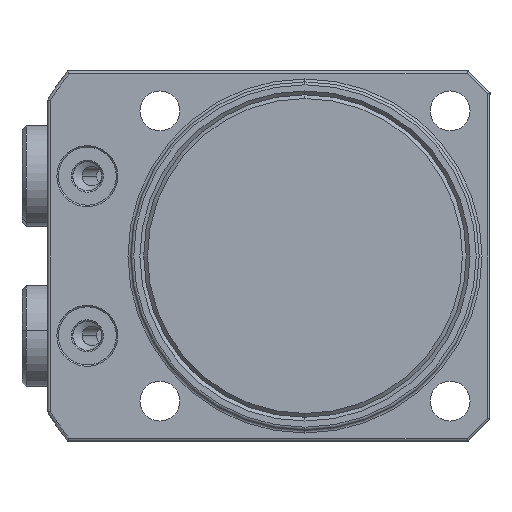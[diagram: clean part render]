
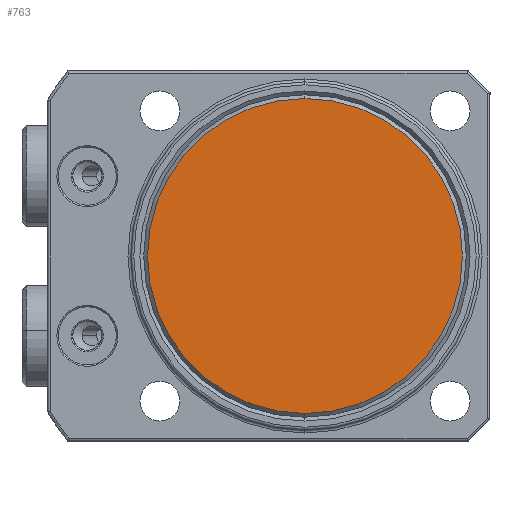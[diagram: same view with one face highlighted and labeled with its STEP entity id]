
A CAD part, front view. The second image highlights one B-rep face of the part: STEP entity #763.
In plain terms, the highlighted planar face has unit normal (0, -1, 0) as drawn and (1, 0, 0) by its records, which use the part's own axes.
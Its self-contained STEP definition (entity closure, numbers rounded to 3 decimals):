
#570=PLANE('',#3103);
#763=ADVANCED_FACE('',(#947),#570,.T.);
#947=FACE_OUTER_BOUND('',#1085,.T.);
#1085=EDGE_LOOP('',(#1721,#1722));
#1721=ORIENTED_EDGE('',*,*,#2522,.F.);
#1722=ORIENTED_EDGE('',*,*,#2652,.F.);
#2277=VERTEX_POINT('',#4170);
#2278=VERTEX_POINT('',#4171);
#2522=EDGE_CURVE('',#2277,#2278,#2861,.T.);
#2652=EDGE_CURVE('',#2278,#2277,#2903,.T.);
#2861=CIRCLE('',#3032,21.7);
#2903=CIRCLE('',#3102,21.7);
#3032=AXIS2_PLACEMENT_3D('',#4169,#3415,#3416);
#3102=AXIS2_PLACEMENT_3D('',#4708,#3611,#3612);
#3103=AXIS2_PLACEMENT_3D('',#4709,#3613,#3614);
#3415=DIRECTION('',(-1.,0.,0.));
#3416=DIRECTION('',(0.,0.,1.));
#3611=DIRECTION('',(-1.,0.,0.));
#3612=DIRECTION('',(0.,0.,1.));
#3613=DIRECTION('',(1.,0.,0.));
#3614=DIRECTION('',(0.,0.,1.));
#4169=CARTESIAN_POINT('',(51.,0.,0.));
#4170=CARTESIAN_POINT('',(51.,0.,21.7));
#4171=CARTESIAN_POINT('',(51.,0.,-21.7));
#4708=CARTESIAN_POINT('',(51.,0.,0.));
#4709=CARTESIAN_POINT('',(51.,0.,0.));
